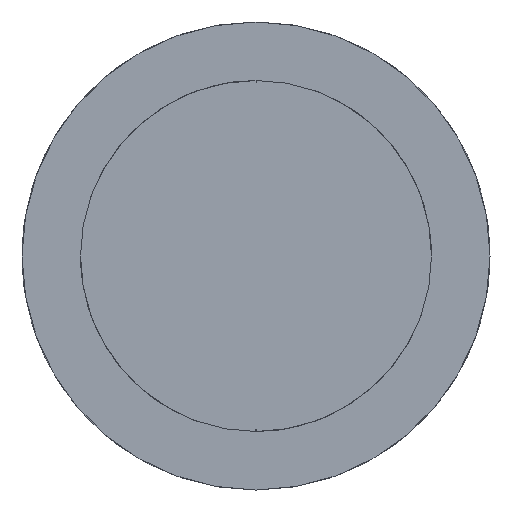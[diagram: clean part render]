
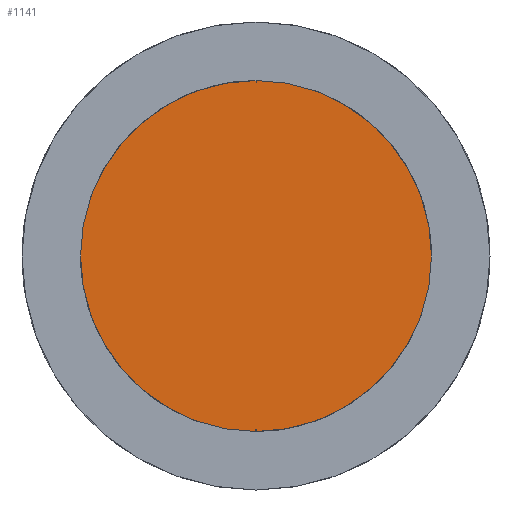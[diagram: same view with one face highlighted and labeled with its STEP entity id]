
A CAD part, left-side view. The second image highlights one B-rep face of the part: STEP entity #1141.
In plain terms, the highlighted planar face has unit normal (-1, 0, 0).
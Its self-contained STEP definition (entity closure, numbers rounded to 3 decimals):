
#1073=CARTESIAN_POINT('Vertex',(0.,0.,6.)) ;
#1080=CARTESIAN_POINT('Vertex',(0.,0.,-6.)) ;
#1083=CARTESIAN_POINT('Axis2P3D Location',(0.,0.,0.)) ;
#1087=CARTESIAN_POINT('Vertex',(0.,6.,0.)) ;
#1090=CARTESIAN_POINT('Axis2P3D Location',(0.,0.,0.)) ;
#1109=CARTESIAN_POINT('Axis2P3D Location',(0.,0.,0.)) ;
#1113=CARTESIAN_POINT('Vertex',(0.,-6.,0.)) ;
#1116=CARTESIAN_POINT('Axis2P3D Location',(0.,0.,0.)) ;
#1130=CARTESIAN_POINT('Axis2P3D Location',(0.,0.,0.)) ;
#1084=DIRECTION('Axis2P3D Direction',(-1.,0.,0.)) ;
#1091=DIRECTION('Axis2P3D Direction',(-1.,0.,0.)) ;
#1110=DIRECTION('Axis2P3D Direction',(-1.,0.,0.)) ;
#1117=DIRECTION('Axis2P3D Direction',(-1.,0.,0.)) ;
#1131=DIRECTION('Axis2P3D Direction',(1.,0.,-0.)) ;
#1132=DIRECTION('Axis2P3D XDirection',(-0.,0.,-1.)) ;
#1085=AXIS2_PLACEMENT_3D('Circle Axis2P3D',#1083,#1084,$) ;
#1092=AXIS2_PLACEMENT_3D('Circle Axis2P3D',#1090,#1091,$) ;
#1111=AXIS2_PLACEMENT_3D('Circle Axis2P3D',#1109,#1110,$) ;
#1118=AXIS2_PLACEMENT_3D('Circle Axis2P3D',#1116,#1117,$) ;
#1133=AXIS2_PLACEMENT_3D('Plane Axis2P3D',#1130,#1131,#1132) ;
#1136=ORIENTED_EDGE('',*,*,#1089,.F.) ;
#1137=ORIENTED_EDGE('',*,*,#1120,.F.) ;
#1138=ORIENTED_EDGE('',*,*,#1115,.F.) ;
#1139=ORIENTED_EDGE('',*,*,#1094,.F.) ;
#1141=ADVANCED_FACE('CF-VPA16',(#1140),#1134,.F.) ;
#1086=CIRCLE('generated circle',#1085,6.) ;
#1093=CIRCLE('generated circle',#1092,6.) ;
#1112=CIRCLE('generated circle',#1111,6.) ;
#1119=CIRCLE('generated circle',#1118,6.) ;
#1089=EDGE_CURVE('',#1081,#1088,#1086,.F.) ;
#1094=EDGE_CURVE('',#1088,#1074,#1093,.F.) ;
#1115=EDGE_CURVE('',#1074,#1114,#1112,.F.) ;
#1120=EDGE_CURVE('',#1114,#1081,#1119,.F.) ;
#1135=EDGE_LOOP('',(#1136,#1137,#1138,#1139)) ;
#1140=FACE_OUTER_BOUND('',#1135,.T.) ;
#1134=PLANE('Plane',#1133) ;
#1074=VERTEX_POINT('',#1073) ;
#1081=VERTEX_POINT('',#1080) ;
#1088=VERTEX_POINT('',#1087) ;
#1114=VERTEX_POINT('',#1113) ;
